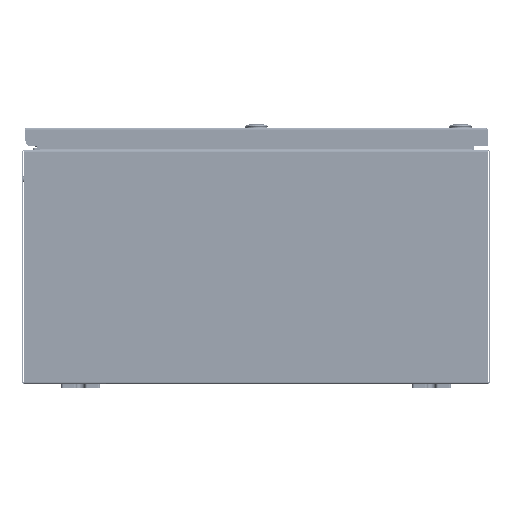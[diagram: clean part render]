
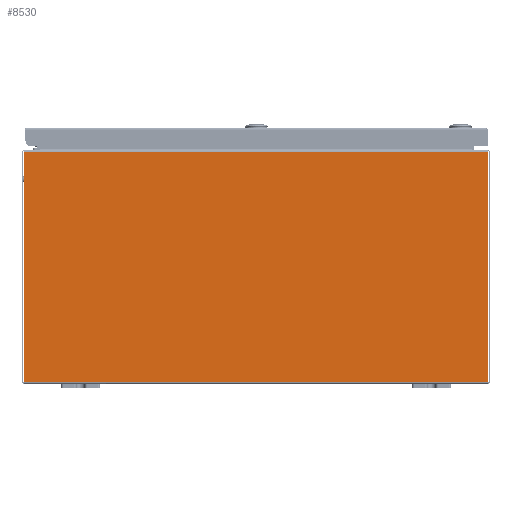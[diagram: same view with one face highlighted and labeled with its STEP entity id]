
A CAD part, front view. The second image highlights one B-rep face of the part: STEP entity #8530.
In plain terms, the highlighted planar face has unit normal (0, -1, 0).
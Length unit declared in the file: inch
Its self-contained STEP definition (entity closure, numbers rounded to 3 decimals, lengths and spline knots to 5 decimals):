
#2349=CARTESIAN_POINT('',(-11.91,-18.0,11.901));
#2350=VERTEX_POINT('',#2349);
#2358=CARTESIAN_POINT('',(11.91,-18.0,11.901));
#2359=VERTEX_POINT('',#2358);
#2360=CARTESIAN_POINT('',(11.91,-18.0,11.901));
#2361=DIRECTION('',(-1.0,0.0,0.0));
#2362=VECTOR('',#2361,23.82);
#2363=LINE('',#2360,#2362);
#2364=EDGE_CURVE('',#2359,#2350,#2363,.T.);
#2397=CARTESIAN_POINT('',(-11.91,-18.,0.099));
#2398=VERTEX_POINT('',#2397);
#2407=CARTESIAN_POINT('',(-11.91,-18.0,0.099));
#2408=DIRECTION('',(0.0,0.0,1.0));
#2409=VECTOR('',#2408,11.802);
#2410=LINE('',#2407,#2409);
#2411=EDGE_CURVE('',#2398,#2350,#2410,.T.);
#7280=CARTESIAN_POINT('',(11.91,-18.,0.099));
#7281=VERTEX_POINT('',#7280);
#7282=CARTESIAN_POINT('',(11.91,-18.0,11.901));
#7283=DIRECTION('',(0.0,0.0,-1.0));
#7284=VECTOR('',#7283,11.802);
#7285=LINE('',#7282,#7284);
#7286=EDGE_CURVE('',#2359,#7281,#7285,.T.);
#8334=CARTESIAN_POINT('',(-11.91,-18.0,0.099));
#8335=DIRECTION('',(1.0,0.0,0.0));
#8336=VECTOR('',#8335,23.82);
#8337=LINE('',#8334,#8336);
#8338=EDGE_CURVE('',#2398,#7281,#8337,.T.);
#8519=CARTESIAN_POINT('',(0.,-18.0,6.0));
#8520=DIRECTION('',(0.0,1.0,0.0));
#8521=DIRECTION('',(0.0,0.0,1.0));
#8522=AXIS2_PLACEMENT_3D('',#8519,#8520,#8521);
#8523=PLANE('',#8522);
#8524=ORIENTED_EDGE('',*,*,#2364,.T.);
#8525=ORIENTED_EDGE('',*,*,#2411,.F.);
#8526=ORIENTED_EDGE('',*,*,#8338,.T.);
#8527=ORIENTED_EDGE('',*,*,#7286,.F.);
#8528=EDGE_LOOP('',(#8524,#8525,#8526,#8527));
#8529=FACE_OUTER_BOUND('',#8528,.T.);
#8530=ADVANCED_FACE('',(#8529),#8523,.F.);
